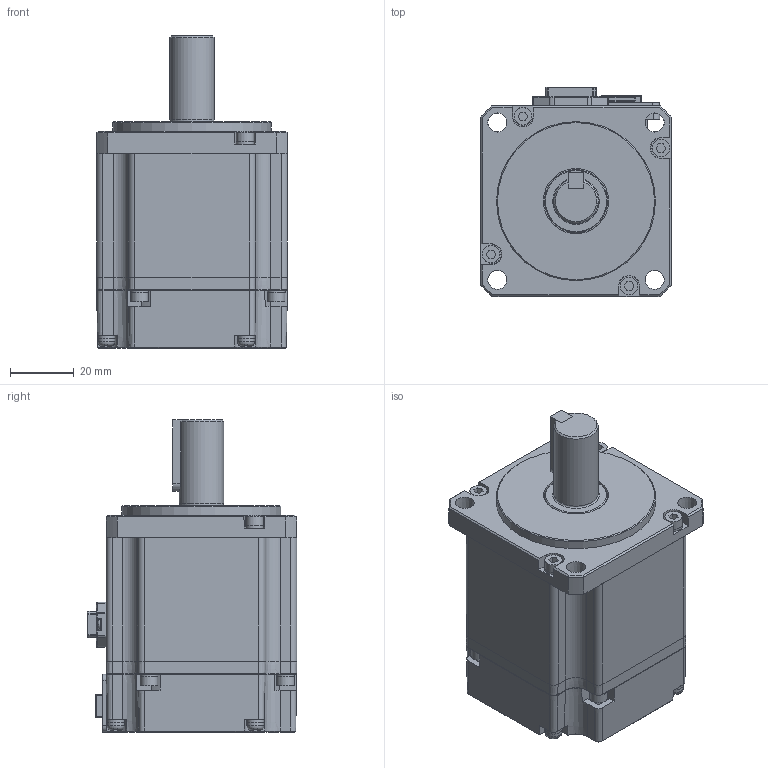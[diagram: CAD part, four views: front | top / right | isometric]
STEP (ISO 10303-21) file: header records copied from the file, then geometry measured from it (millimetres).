
FILE_DESCRIPTION (( 'STEP AP214' ), '1' );
FILE_NAME ('EM06GA001G02_Out Line(APM-EB02AM3K).STEP', '2022-11-04T03:03:11', ( '' ), ( '' ), 'SwSTEP 2.0', 'SolidWorks 2021', '' );
FILE_SCHEMA (( 'AUTOMOTIVE_DESIGN' ));
Length unit declared in the file: millimetre
Products named in the file (1): EM06GA001G02_Out Line(APM-EB02AM3K)
Bounding box: 60 x 65.9 x 98.2 mm (x, y, z)
Volume: 229843.9 mm3; surface area: 54050.9 mm2
Topology: 34 solids, 34 shells, 1416 faces, 3528 edges, 2249 vertices
Faces by surface type: plane 1034, cylinder 216, cone 103, torus 31, bspline 18, sphere 14
Full cylindrical faces by diameter (mm): 1.6 x10, 2 x2, 2.1 x2, 2.5 x12, 3 x16, 3.1 x8, 3.5 x4, 5.4 x8, 5.5 x8, 5.6 x8, 14 x1, 19.8 x1, 20.5 x1, 50 x1
Entity records: 57476 total; most frequent: CARTESIAN_POINT 8653, ORIENTED_EDGE 6724, DIRECTION 6473, EDGE_CURVE 3362, VECTOR 2503, LINE 2503, VERTEX_POINT 2210, AXIS2_PLACEMENT_3D 1985
